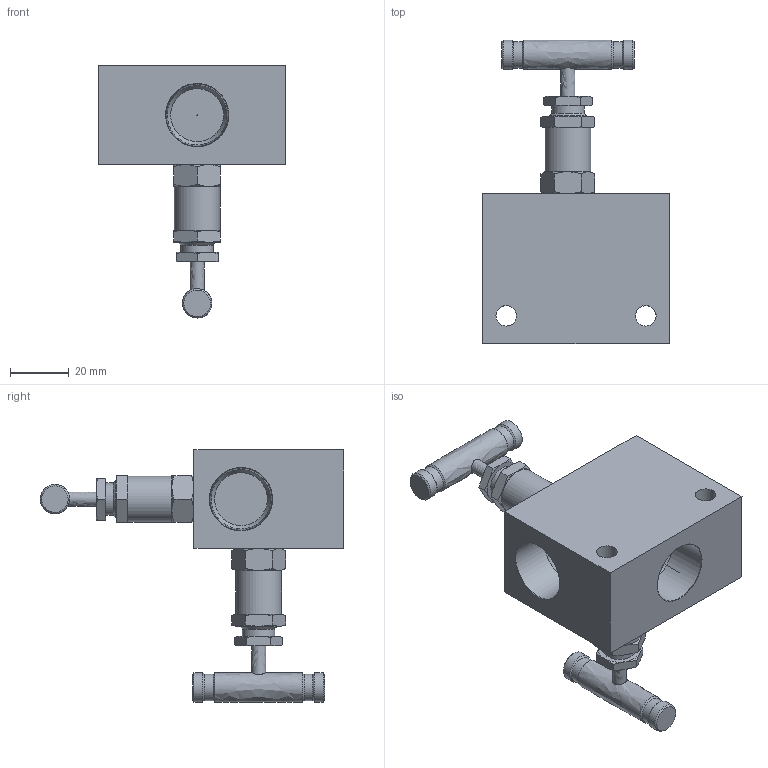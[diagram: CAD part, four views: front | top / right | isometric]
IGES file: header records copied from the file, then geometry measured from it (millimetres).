
Global section: file name: SM2V-F8N; native system: Autodesk Inventor 2016; preprocessor: unknown; author: DESIGNPC2; date: 20161216.192040; units: millimetre
Bounding box: 63.5 x 103.35 x 85.85 mm (x, y, z)
Volume: 108404 mm3; surface area: 27781.4 mm2
Topology: 3 solids, 3 shells, 182 faces, 458 edges, 301 vertices
Faces by surface type: bspline 182
